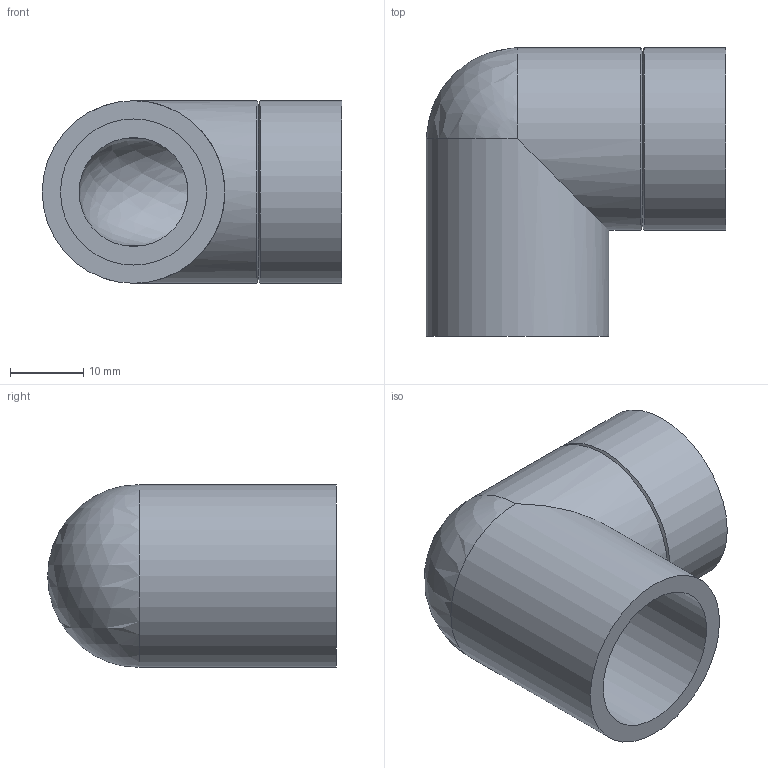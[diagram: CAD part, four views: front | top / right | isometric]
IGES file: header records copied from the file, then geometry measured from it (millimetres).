
Global section: file name: 057502020005.ipt; native system: Autodesk Inventor 2015; preprocessor: unknown; author: KIM; date: 20171207.165858; units: millimetre
Bounding box: 41 x 39.5 x 25 mm (x, y, z)
Volume: 13785.7 mm3; surface area: 7771.1 mm2
Topology: 1 solids, 1 shells, 15 faces, 32 edges, 19 vertices
Faces by surface type: revolution 5, plane 4, cylinder 3, cone 2, sphere 1
Full cylindrical faces by diameter (mm): 25 x3
